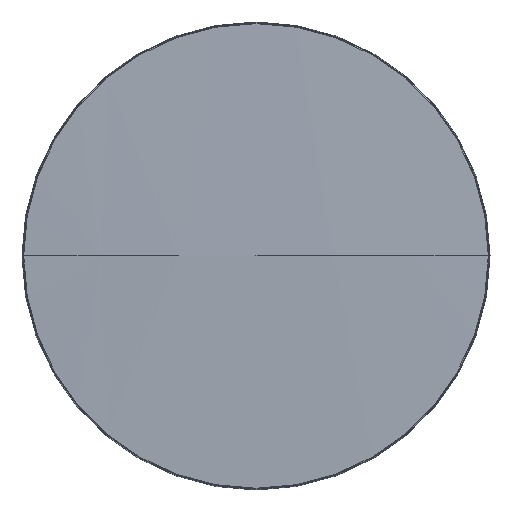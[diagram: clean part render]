
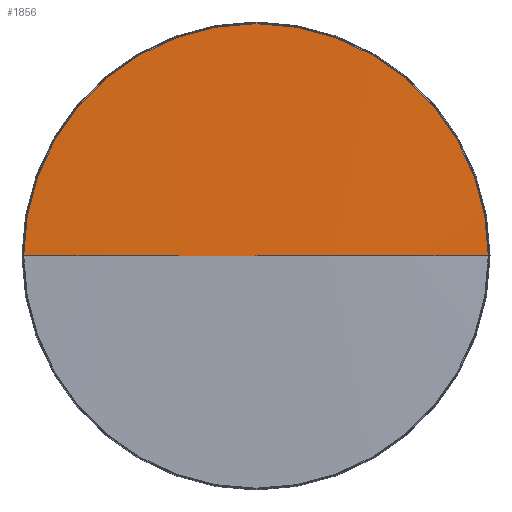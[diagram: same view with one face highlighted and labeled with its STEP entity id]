
A CAD part, top view. The second image highlights one B-rep face of the part: STEP entity #1856.
In plain terms, the highlighted spherical face has radius 2487.93 mm.
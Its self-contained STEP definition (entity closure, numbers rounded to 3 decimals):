
#1676=CARTESIAN_POINT('',(0.,0.,-104.981));
#1677=DIRECTION('',(0.,0.,-1.));
#1678=DIRECTION('',(-1.,0.,0.));
#1679=AXIS2_PLACEMENT_3D('',#1676,#1677,#1678);
#1691=CARTESIAN_POINT('',(0.,0.,-2590.926));
#1692=DIRECTION('',(0.,1.,0.));
#1693=DIRECTION('',(0.,0.,1.));
#1694=AXIS2_PLACEMENT_3D('',#1691,#1692,#1693);
#1696=CARTESIAN_POINT('',(0.,0.,-2590.926));
#1697=DIRECTION('',(0.,-1.,0.));
#1698=DIRECTION('',(0.,0.,1.));
#1699=AXIS2_PLACEMENT_3D('',#1696,#1697,#1698);
#1777=CARTESIAN_POINT('',(0.,0.,-103.));
#1778=CARTESIAN_POINT('',(-99.266,0.,
-104.981));
#1779=VERTEX_POINT('',#1777);
#1780=VERTEX_POINT('',#1778);
#1781=CARTESIAN_POINT('',(99.266,0.,
-104.981));
#1782=VERTEX_POINT('',#1781);
#1846=CARTESIAN_POINT('',(0.,0.,-2590.926));
#1847=DIRECTION('',(0.,0.,-1.));
#1848=DIRECTION('',(1.,0.,0.));
#1849=AXIS2_PLACEMENT_3D('',#1846,#1847,#1848);
#1850=SPHERICAL_SURFACE('',#1849,2487.926);
#1851=ORIENTED_EDGE('',*,*,#1837,.T.);
#1852=ORIENTED_EDGE('',*,*,#1812,.F.);
#1853=ORIENTED_EDGE('',*,*,#1810,.T.);
#1854=EDGE_LOOP('',(#1851,#1852,#1853));
#1855=FACE_OUTER_BOUND('',#1854,.F.);
#1856=ADVANCED_FACE('',(#1855),#1850,.T.);
#1680=CIRCLE('',#1679,99.266);
#1695=CIRCLE('',#1694,2487.926);
#1700=CIRCLE('',#1699,2487.926);
#1810=EDGE_CURVE('',#1779,#1780,#1700,.T.);
#1812=EDGE_CURVE('',#1779,#1782,#1695,.T.);
#1837=EDGE_CURVE('',#1780,#1782,#1680,.T.);
